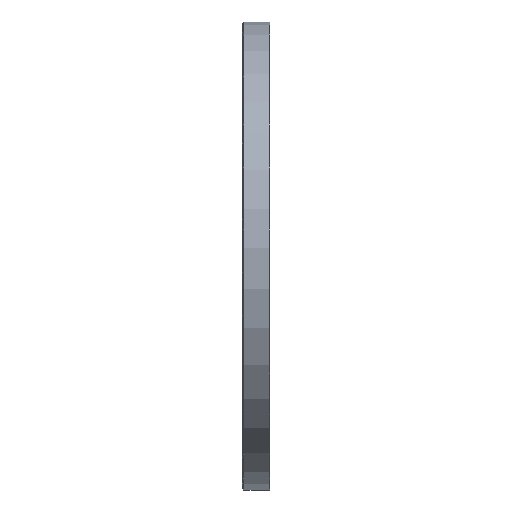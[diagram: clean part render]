
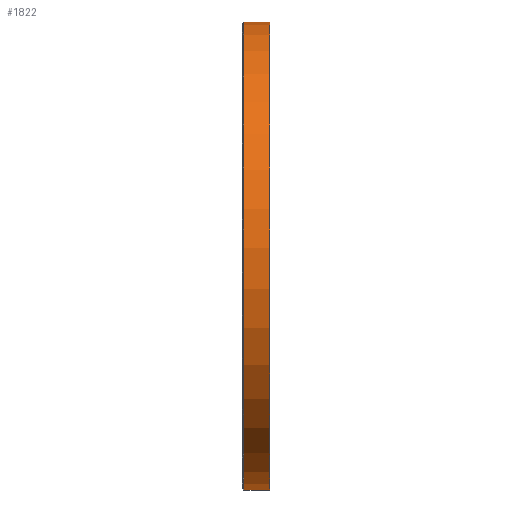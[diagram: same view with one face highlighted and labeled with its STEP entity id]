
A CAD part, left-side view. The second image highlights one B-rep face of the part: STEP entity #1822.
In plain terms, the highlighted cylindrical face has radius 86.448 mm (diameter 172.896 mm), a partial arc.
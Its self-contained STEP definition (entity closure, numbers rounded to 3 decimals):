
#23=CYLINDRICAL_SURFACE('',#2001,86.448);
#158=FACE_OUTER_BOUND('',#285,.T.);
#285=EDGE_LOOP('',(#1379,#1380,#1381,#1382));
#430=LINE('',#2930,#585);
#431=LINE('',#2932,#586);
#585=VECTOR('',#2345,10.);
#586=VECTOR('',#2348,10.);
#701=CIRCLE('',#1923,86.448);
#748=CIRCLE('',#1982,86.448);
#813=VERTEX_POINT('',#2737);
#814=VERTEX_POINT('',#2739);
#871=VERTEX_POINT('',#2877);
#874=VERTEX_POINT('',#2882);
#976=EDGE_CURVE('',#813,#814,#701,.T.);
#1048=EDGE_CURVE('',#874,#871,#748,.T.);
#1072=EDGE_CURVE('',#871,#813,#430,.T.);
#1073=EDGE_CURVE('',#814,#874,#431,.T.);
#1379=ORIENTED_EDGE('',*,*,#1048,.F.);
#1380=ORIENTED_EDGE('',*,*,#1073,.F.);
#1381=ORIENTED_EDGE('',*,*,#976,.F.);
#1382=ORIENTED_EDGE('',*,*,#1072,.F.);
#1822=ADVANCED_FACE('',(#158),#23,.T.);
#1923=AXIS2_PLACEMENT_3D('',#2740,#2149,#2150);
#1982=AXIS2_PLACEMENT_3D('',#2884,#2292,#2293);
#2001=AXIS2_PLACEMENT_3D('',#2931,#2346,#2347);
#2149=DIRECTION('center_axis',(0.,-1.,0.));
#2150=DIRECTION('ref_axis',(-1.,0.,0.));
#2292=DIRECTION('center_axis',(0.,1.,0.));
#2293=DIRECTION('ref_axis',(-1.,0.,0.));
#2345=DIRECTION('',(0.,-1.,0.));
#2346=DIRECTION('center_axis',(0.,-1.,0.));
#2347=DIRECTION('ref_axis',(-1.,0.,0.));
#2348=DIRECTION('',(0.,1.,0.));
#2737=CARTESIAN_POINT('',(84.908,-10.,16.242));
#2739=CARTESIAN_POINT('',(71.407,-10.,-48.727));
#2740=CARTESIAN_POINT('Origin',(0.,-10.,
0.));
#2877=CARTESIAN_POINT('',(84.908,-0.5,16.242));
#2882=CARTESIAN_POINT('',(71.407,-0.5,-48.727));
#2884=CARTESIAN_POINT('Origin',(0.,-0.5,0.));
#2930=CARTESIAN_POINT('',(84.908,0.,16.242));
#2931=CARTESIAN_POINT('Origin',(0.,0.,0.));
#2932=CARTESIAN_POINT('',(71.407,0.,-48.727));
